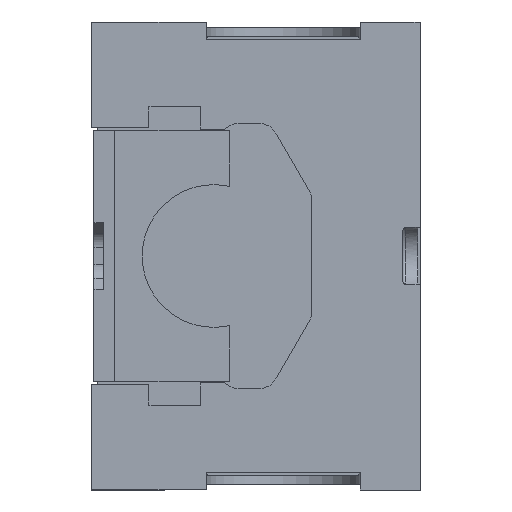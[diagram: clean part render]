
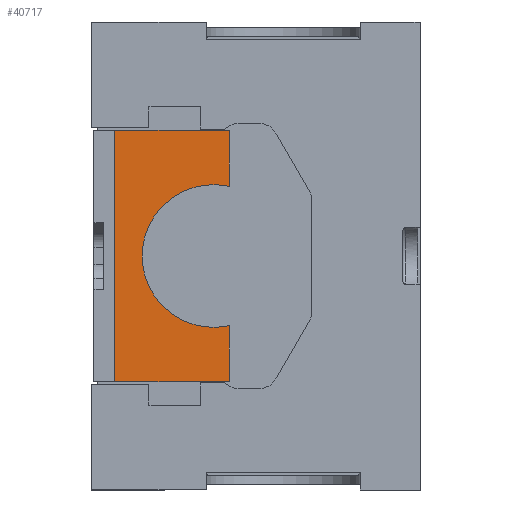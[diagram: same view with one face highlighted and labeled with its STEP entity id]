
A CAD part, left-side view. The second image highlights one B-rep face of the part: STEP entity #40717.
In plain terms, the highlighted planar face has unit normal (-1, 0, 0).
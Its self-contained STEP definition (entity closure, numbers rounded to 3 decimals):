
#163 = CARTESIAN_POINT ( 'NONE',  ( 7., 111.93, 44. ) ) ;
#2684 = CARTESIAN_POINT ( 'NONE',  ( 7., 71.93, 24.394 ) ) ;
#3671 = DIRECTION ( 'NONE',  ( 1., 0., 0. ) ) ;
#4448 = AXIS2_PLACEMENT_3D ( 'NONE', #18410, #27491, #90000 ) ;
#6831 = CARTESIAN_POINT ( 'NONE',  ( 7., 111.93, 44. ) ) ;
#7708 = EDGE_CURVE ( 'NONE', #57205, #115734, #16413, .T. ) ;
#8356 = LINE ( 'NONE', #35176, #98040 ) ;
#16413 = LINE ( 'NONE', #54658, #37408 ) ;
#18410 = CARTESIAN_POINT ( 'NONE',  ( 7., 111.93, 44. ) ) ;
#20628 = VERTEX_POINT ( 'NONE', #112361 ) ;
#27491 = DIRECTION ( 'NONE',  ( 1., 0., 0. ) ) ;
#28403 = LINE ( 'NONE', #163, #75918 ) ;
#29954 = VECTOR ( 'NONE', #87521, 1000. ) ;
#31254 = EDGE_CURVE ( 'NONE', #103086, #66716, #28403, .T. ) ;
#32744 = LINE ( 'NONE', #6831, #29954 ) ;
#35176 = CARTESIAN_POINT ( 'NONE',  ( 7., 71.93, 44. ) ) ;
#37408 = VECTOR ( 'NONE', #54407, 1000. ) ;
#38741 = VERTEX_POINT ( 'NONE', #2684 ) ;
#40717 = ADVANCED_FACE ( 'NONE', ( #91035 ), #71978, .F. ) ;
#42022 = CIRCLE ( 'NONE', #104858, 25. ) ;
#42940 = VECTOR ( 'NONE', #81771, 1000. ) ;
#46197 = EDGE_CURVE ( 'NONE', #57205, #38741, #42022, .T. ) ;
#53103 = DIRECTION ( 'NONE',  ( 0., 0., -1. ) ) ;
#53639 = ORIENTED_EDGE ( 'NONE', *, *, #107047, .T. ) ;
#54168 = EDGE_CURVE ( 'NONE', #103086, #20628, #32744, .T. ) ;
#54407 = DIRECTION ( 'NONE',  ( 0., 0., -1. ) ) ;
#54658 = CARTESIAN_POINT ( 'NONE',  ( 7., 71.93, 44. ) ) ;
#57205 = VERTEX_POINT ( 'NONE', #60140 ) ;
#57324 = CARTESIAN_POINT ( 'NONE',  ( 7., 77.4, 0. ) ) ;
#57572 = ORIENTED_EDGE ( 'NONE', *, *, #54168, .F. ) ;
#60140 = CARTESIAN_POINT ( 'NONE',  ( 7., 71.93, -24.394 ) ) ;
#61221 = CARTESIAN_POINT ( 'NONE',  ( 7., 111.93, 44. ) ) ;
#61780 = CARTESIAN_POINT ( 'NONE',  ( 7., 111.93, -44. ) ) ;
#62849 = DIRECTION ( 'NONE',  ( 0., 0., -1. ) ) ;
#62879 = CARTESIAN_POINT ( 'NONE',  ( 7., 71.93, -44. ) ) ;
#63103 = ORIENTED_EDGE ( 'NONE', *, *, #7708, .F. ) ;
#66305 = DIRECTION ( 'NONE',  ( 0., 1., 0. ) ) ;
#66716 = VERTEX_POINT ( 'NONE', #74671 ) ;
#71039 = EDGE_LOOP ( 'NONE', ( #63103, #99975, #103813, #57572, #92507, #53639 ) ) ;
#71978 = PLANE ( 'NONE',  #4448 ) ;
#74671 = CARTESIAN_POINT ( 'NONE',  ( 7., 111.93, -44. ) ) ;
#75918 = VECTOR ( 'NONE', #62849, 1000. ) ;
#81771 = DIRECTION ( 'NONE',  ( 0., -1., 0. ) ) ;
#86934 = EDGE_CURVE ( 'NONE', #20628, #38741, #8356, .T. ) ;
#87521 = DIRECTION ( 'NONE',  ( 0., -1., 0. ) ) ;
#90000 = DIRECTION ( 'NONE',  ( 0., 1., 0. ) ) ;
#91035 = FACE_OUTER_BOUND ( 'NONE', #71039, .T. ) ;
#92507 = ORIENTED_EDGE ( 'NONE', *, *, #31254, .T. ) ;
#98040 = VECTOR ( 'NONE', #53103, 1000. ) ;
#99975 = ORIENTED_EDGE ( 'NONE', *, *, #46197, .T. ) ;
#103086 = VERTEX_POINT ( 'NONE', #61221 ) ;
#103813 = ORIENTED_EDGE ( 'NONE', *, *, #86934, .F. ) ;
#104858 = AXIS2_PLACEMENT_3D ( 'NONE', #57324, #3671, #66305 ) ;
#107047 = EDGE_CURVE ( 'NONE', #66716, #115734, #114389, .T. ) ;
#112361 = CARTESIAN_POINT ( 'NONE',  ( 7., 71.93, 44. ) ) ;
#114389 = LINE ( 'NONE', #61780, #42940 ) ;
#115734 = VERTEX_POINT ( 'NONE', #62879 ) ;
